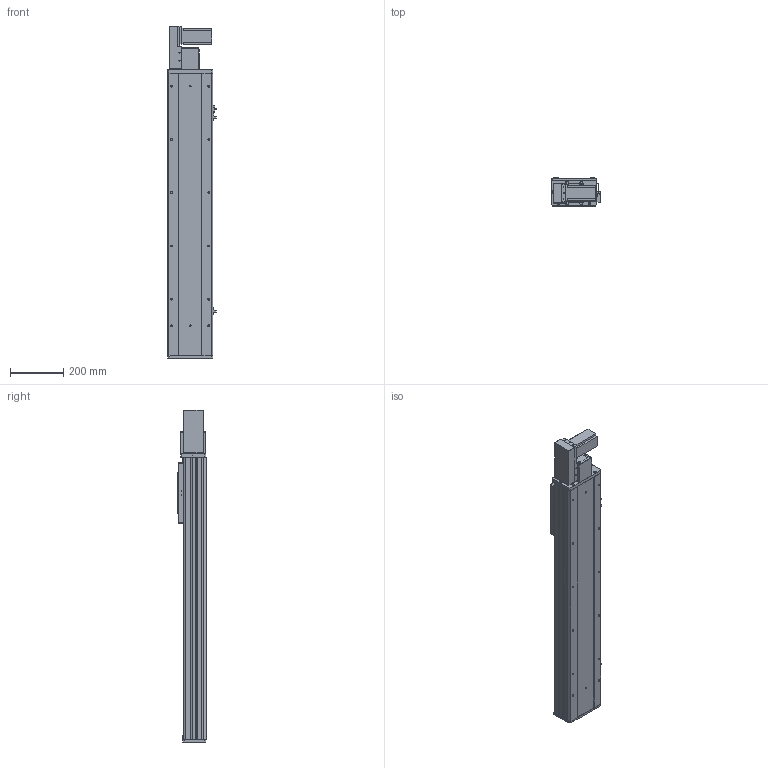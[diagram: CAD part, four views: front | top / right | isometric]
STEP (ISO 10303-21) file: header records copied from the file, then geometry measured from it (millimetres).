
FILE_DESCRIPTION (( 'STEP AP203' ), '1' );
FILE_NAME ('Y170CB-D105-S750-BL-P400W.STEP', '2020-02-20T01:11:48', ( '微软用户' ), ( '微软中国' ), 'SwSTEP 2.0', 'SolidWorks 2017', '' );
FILE_SCHEMA (( 'CONFIG_CONTROL_DESIGN' ));
Length unit declared in the file: millimetre
Products named in the file (18): 0B-萇儂楊擘啣; 70B喘謫眊----; 70CB-耜裔啣-; san松下电机400不带刹车----; Y1埴倛裔; 70C--詩湍揤踡え-; Y70俋欶BR----; Y170CB-D105-S750-BL-P400W; 70CB--耜裔; 70CB-掛极-; 70C-雄赽釱-奻-; --70CB --喘謫眊楊擘啣-; 0C--雄赽釱俋欶-170; 70CB-詩湍--; B-源倛裔啣; Y100-135俋离換覜ん--; 17B-耜蚾蟀諉啣----; Y170CB-陔俋离換覜結え---
Assembly tree (21 placements, depth 2):
  Y170CB-D105-S750-BL-P400W
    B-源倛裔啣
    17B-耜蚾蟀諉啣----
    0B-萇儂楊擘啣
    san松下电机400不带刹车----
    Y70俋欶BR----
    70CB-掛极-
    --70CB --喘謫眊楊擘啣-
    70CB-耜裔啣-  x2
    70C--詩湍揤踡え-  x2
    70CB--耜裔
    70C-雄赽釱-奻-
    0C--雄赽釱俋欶-170
    70CB-詩湍--
    Y100-135俋离換覜ん--  x3
    Y170CB-陔俋离換覜結え---
    70B喘謫眊----
    Y1埴倛裔
Bounding box: 183.5 x 107 x 1247 mm (x, y, z)
Volume: 5552977.9 mm3; surface area: 1982884.1 mm2
Topology: 21 solids, 21 shells, 999 faces, 2669 edges, 1770 vertices
Faces by surface type: cylinder 511, plane 464, cone 24
Entity records: 31736 total; most frequent: CARTESIAN_POINT 5796, DIRECTION 5158, ORIENTED_EDGE 4820, EDGE_CURVE 2410, AXIS2_PLACEMENT_3D 1884, VERTEX_POINT 1600, VECTOR 1390, LINE 1390
